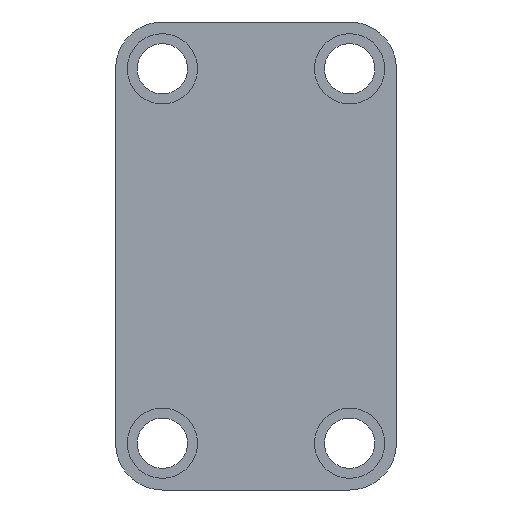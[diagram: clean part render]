
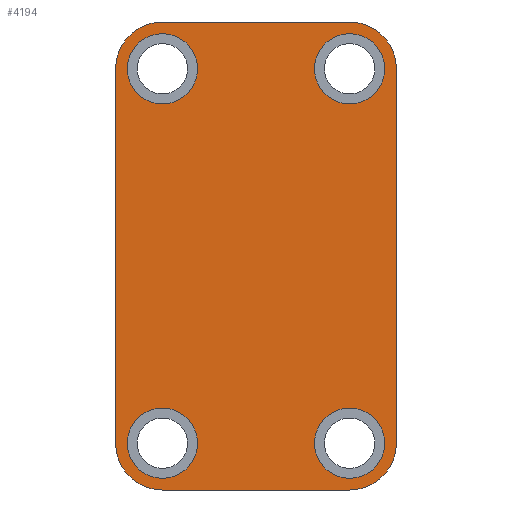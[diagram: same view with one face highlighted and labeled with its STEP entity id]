
A CAD part, front view. The second image highlights one B-rep face of the part: STEP entity #4194.
In plain terms, the highlighted planar face has unit normal (0, -1, 0).
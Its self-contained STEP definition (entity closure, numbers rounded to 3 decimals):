
#183=FACE_BOUND('',#723,.T.);
#184=FACE_BOUND('',#724,.T.);
#185=FACE_BOUND('',#725,.T.);
#186=FACE_BOUND('',#726,.T.);
#221=CIRCLE('',#4401,3.);
#224=CIRCLE('',#4407,3.);
#227=CIRCLE('',#4413,3.);
#230=CIRCLE('',#4419,3.);
#242=CIRCLE('',#4444,4.);
#243=CIRCLE('',#4446,4.);
#245=CIRCLE('',#4452,4.);
#246=CIRCLE('',#4454,4.);
#467=FACE_OUTER_BOUND('',#722,.T.);
#722=EDGE_LOOP('',(#3808,#3809,#3810,#3811,#3812,#3813,#3814,#3815));
#723=EDGE_LOOP('',(#3816));
#724=EDGE_LOOP('',(#3817));
#725=EDGE_LOOP('',(#3818));
#726=EDGE_LOOP('',(#3819));
#884=LINE('',#5821,#1351);
#1157=LINE('',#6886,#1624);
#1180=LINE('',#6986,#1647);
#1185=LINE('',#7002,#1652);
#1351=VECTOR('',#4802,10.);
#1624=VECTOR('',#5259,10.);
#1647=VECTOR('',#5384,10.);
#1652=VECTOR('',#5405,10.);
#1795=VERTEX_POINT('',#5818);
#1796=VERTEX_POINT('',#5820);
#2015=VERTEX_POINT('',#6883);
#2016=VERTEX_POINT('',#6885);
#2019=VERTEX_POINT('',#6894);
#2022=VERTEX_POINT('',#6905);
#2025=VERTEX_POINT('',#6916);
#2028=VERTEX_POINT('',#6927);
#2040=VERTEX_POINT('',#6976);
#2041=VERTEX_POINT('',#6980);
#2042=VERTEX_POINT('',#6984);
#2045=VERTEX_POINT('',#6998);
#2239=EDGE_CURVE('',#1795,#1796,#884,.T.);
#2572=EDGE_CURVE('',#2015,#2016,#1157,.T.);
#2576=EDGE_CURVE('',#2019,#2019,#221,.T.);
#2581=EDGE_CURVE('',#2022,#2022,#224,.T.);
#2586=EDGE_CURVE('',#2025,#2025,#227,.T.);
#2591=EDGE_CURVE('',#2028,#2028,#230,.T.);
#2615=EDGE_CURVE('',#2016,#2040,#242,.T.);
#2618=EDGE_CURVE('',#2041,#2015,#243,.T.);
#2620=EDGE_CURVE('',#2042,#2041,#1180,.T.);
#2625=EDGE_CURVE('',#1796,#2042,#245,.T.);
#2627=EDGE_CURVE('',#2045,#1795,#246,.T.);
#2628=EDGE_CURVE('',#2040,#2045,#1185,.T.);
#3808=ORIENTED_EDGE('',*,*,#2615,.F.);
#3809=ORIENTED_EDGE('',*,*,#2572,.F.);
#3810=ORIENTED_EDGE('',*,*,#2618,.F.);
#3811=ORIENTED_EDGE('',*,*,#2620,.F.);
#3812=ORIENTED_EDGE('',*,*,#2625,.F.);
#3813=ORIENTED_EDGE('',*,*,#2239,.F.);
#3814=ORIENTED_EDGE('',*,*,#2627,.F.);
#3815=ORIENTED_EDGE('',*,*,#2628,.F.);
#3816=ORIENTED_EDGE('',*,*,#2576,.T.);
#3817=ORIENTED_EDGE('',*,*,#2581,.T.);
#3818=ORIENTED_EDGE('',*,*,#2586,.T.);
#3819=ORIENTED_EDGE('',*,*,#2591,.T.);
#3976=PLANE('',#4468);
#4194=ADVANCED_FACE('',(#467,#183,#184,#185,#186),#3976,.F.);
#4401=AXIS2_PLACEMENT_3D('',#6895,#5269,#5270);
#4407=AXIS2_PLACEMENT_3D('',#6906,#5283,#5284);
#4413=AXIS2_PLACEMENT_3D('',#6917,#5297,#5298);
#4419=AXIS2_PLACEMENT_3D('',#6928,#5311,#5312);
#4444=AXIS2_PLACEMENT_3D('',#6977,#5373,#5374);
#4446=AXIS2_PLACEMENT_3D('',#6982,#5379,#5380);
#4452=AXIS2_PLACEMENT_3D('',#6996,#5396,#5397);
#4454=AXIS2_PLACEMENT_3D('',#7000,#5401,#5402);
#4468=AXIS2_PLACEMENT_3D('',#7027,#5438,#5439);
#4802=DIRECTION('',(-1.,0.,0.));
#5259=DIRECTION('',(1.,0.,0.));
#5269=DIRECTION('center_axis',(0.,1.,0.));
#5270=DIRECTION('ref_axis',(1.,0.,0.));
#5283=DIRECTION('center_axis',(0.,1.,0.));
#5284=DIRECTION('ref_axis',(1.,0.,0.));
#5297=DIRECTION('center_axis',(0.,1.,0.));
#5298=DIRECTION('ref_axis',(1.,0.,0.));
#5311=DIRECTION('center_axis',(0.,1.,0.));
#5312=DIRECTION('ref_axis',(1.,0.,0.));
#5373=DIRECTION('center_axis',(0.,1.,0.));
#5374=DIRECTION('ref_axis',(0.707,0.,0.707));
#5379=DIRECTION('center_axis',(0.,1.,0.));
#5380=DIRECTION('ref_axis',(-0.707,0.,0.707));
#5384=DIRECTION('',(0.,0.,1.));
#5396=DIRECTION('center_axis',(0.,1.,0.));
#5397=DIRECTION('ref_axis',(-0.707,0.,-0.707));
#5401=DIRECTION('center_axis',(0.,1.,0.));
#5402=DIRECTION('ref_axis',(0.707,0.,-0.707));
#5405=DIRECTION('',(0.,0.,-1.));
#5438=DIRECTION('center_axis',(0.,1.,0.));
#5439=DIRECTION('ref_axis',(0.,0.,1.));
#5818=CARTESIAN_POINT('',(8.,0.,-20.));
#5820=CARTESIAN_POINT('',(-8.,0.,-20.));
#5821=CARTESIAN_POINT('',(12.,0.,-20.));
#6883=CARTESIAN_POINT('',(-8.,0.,20.));
#6885=CARTESIAN_POINT('',(8.,0.,20.));
#6886=CARTESIAN_POINT('',(-12.,0.,20.));
#6894=CARTESIAN_POINT('',(-11.,0.,-16.));
#6895=CARTESIAN_POINT('Origin',(-8.,0.,-16.));
#6905=CARTESIAN_POINT('',(5.,0.,-16.));
#6906=CARTESIAN_POINT('Origin',(8.,0.,-16.));
#6916=CARTESIAN_POINT('',(5.,0.,16.));
#6917=CARTESIAN_POINT('Origin',(8.,0.,16.));
#6927=CARTESIAN_POINT('',(-11.,0.,16.));
#6928=CARTESIAN_POINT('Origin',(-8.,0.,16.));
#6976=CARTESIAN_POINT('',(12.,0.,16.));
#6977=CARTESIAN_POINT('Origin',(8.,0.,16.));
#6980=CARTESIAN_POINT('',(-12.,0.,16.));
#6982=CARTESIAN_POINT('Origin',(-8.,0.,16.));
#6984=CARTESIAN_POINT('',(-12.,0.,-16.));
#6986=CARTESIAN_POINT('',(-12.,0.,-20.));
#6996=CARTESIAN_POINT('Origin',(-8.,0.,-16.));
#6998=CARTESIAN_POINT('',(12.,0.,-16.));
#7000=CARTESIAN_POINT('Origin',(8.,0.,-16.));
#7002=CARTESIAN_POINT('',(12.,0.,20.));
#7027=CARTESIAN_POINT('Origin',(0.,0.,0.));
